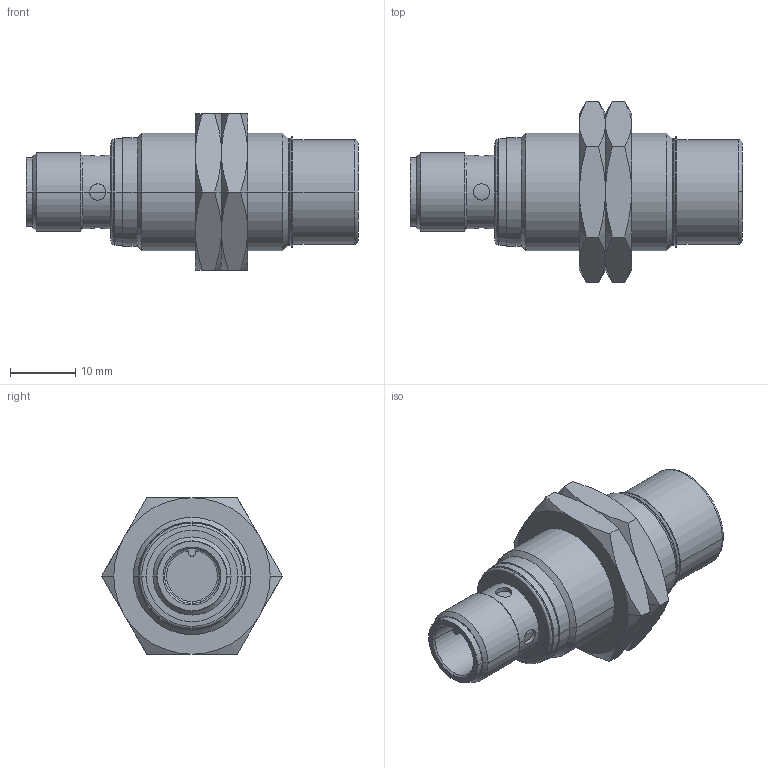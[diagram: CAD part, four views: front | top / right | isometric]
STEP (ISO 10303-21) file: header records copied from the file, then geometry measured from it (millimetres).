
FILE_DESCRIPTION( ( '' ), '1' );
FILE_NAME( '//partserver001.servicenet/client_exchange/iodir/jobs/output/wkb10601841_no0/STEP/igs21a_2_03.stp', '2008-05-15T12:26:56', ( '' ), ( '' ), ' ', ' ', ' ' );
FILE_SCHEMA( ( 'CONFIG_CONTROL_DESIGN' ) );
Length unit declared in the file: millimetre
Products named in the file (3): 1; 2; 3
Bounding box: 50.95 x 27.71 x 24 mm (x, y, z)
Volume: 11877 mm3; surface area: 5280.1 mm2
Topology: 3 solids, 3 shells, 133 faces, 300 edges, 180 vertices
Faces by surface type: cone 56, cylinder 39, plane 26, torus 12
Entity records: 4030 total; most frequent: CARTESIAN_POINT 1010, DIRECTION 636, ORIENTED_EDGE 600, EDGE_CURVE 300, AXIS2_PLACEMENT_3D 274, VERTEX_POINT 180, EDGE_LOOP 144, CIRCLE 138
